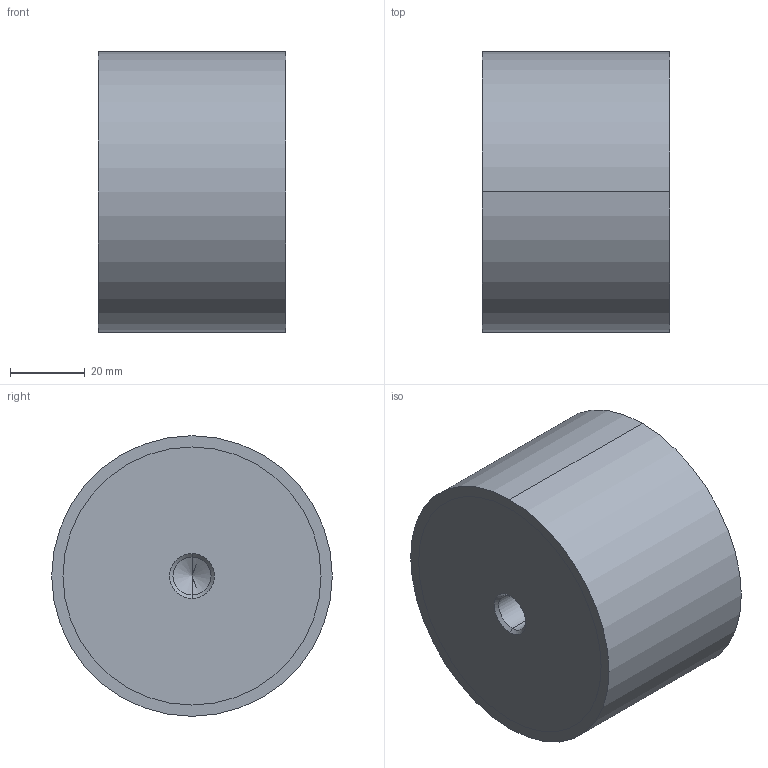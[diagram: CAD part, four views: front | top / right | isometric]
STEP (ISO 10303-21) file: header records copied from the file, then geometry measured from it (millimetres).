
FILE_DESCRIPTION (( 'STEP AP214' ), '1' );
FILE_NAME ('351-75-50-M12-EE-40.step', '2025-07-23T09:56:50', ( '' ), ( '' ), 'SwSTEP 2.0', 'SolidWorks 2022', '' );
FILE_SCHEMA (( 'AUTOMOTIVE_DESIGN' ));
Length unit declared in the file: millimetre
Products named in the file (1): 351-75-50-M12-EE-40
Bounding box: 50 x 75 x 75 mm (x, y, z)
Volume: 218433.2 mm3; surface area: 21477.6 mm2
Topology: 1 solids, 1 shells, 28 faces, 58 edges, 34 vertices
Faces by surface type: cylinder 14, cone 8, plane 6
Entity records: 844 total; most frequent: DIRECTION 144, CARTESIAN_POINT 117, ORIENTED_EDGE 108, AXIS2_PLACEMENT_3D 61, EDGE_CURVE 54, EDGE_LOOP 34, VERTEX_POINT 34, CIRCLE 32
